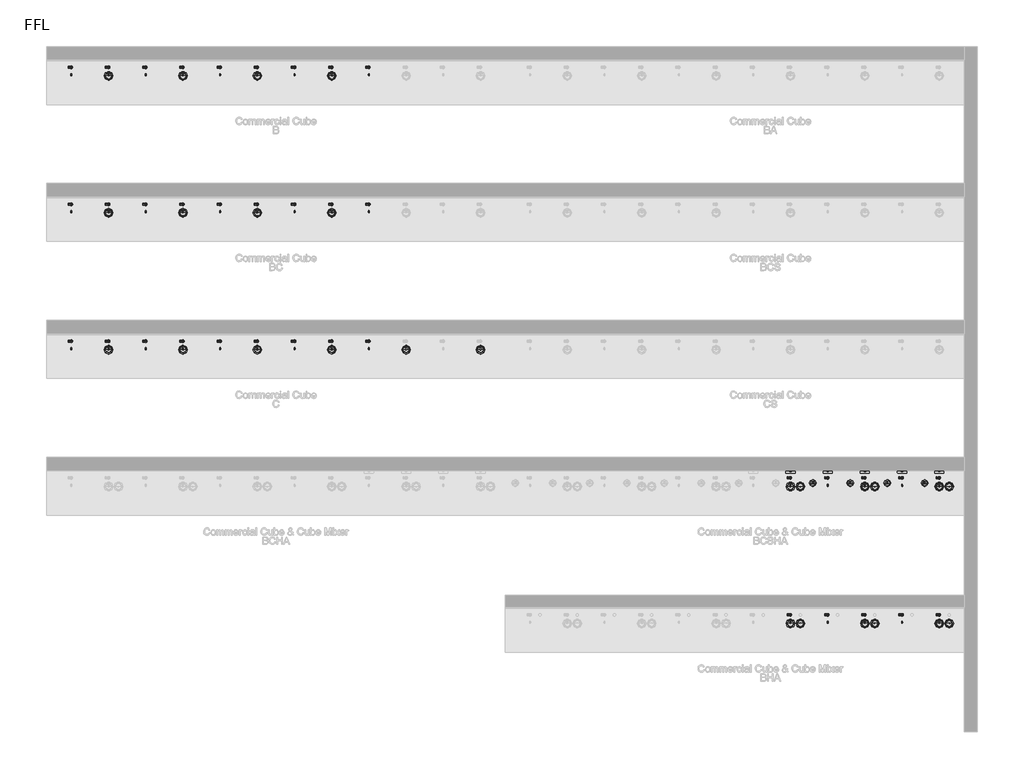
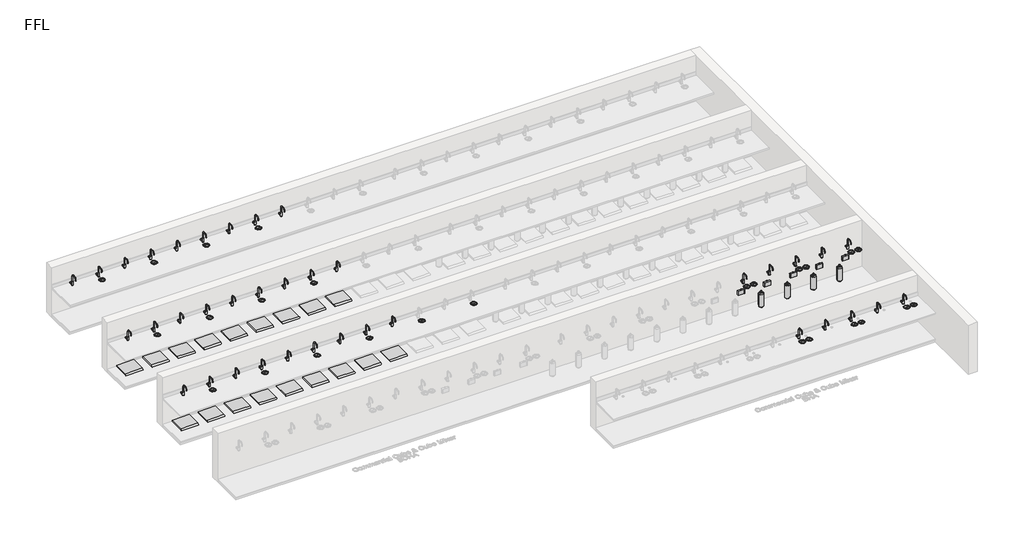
# One storey, part 3 of 14: 100 flow terminals.
"""IFC4 building model written with IfcOpenShell, lengths in millimetres."""

from ifc_helpers import new_model, si_unit, origin, place, context, project, spatial, transform, mapped, element, save
from components import flow_terminal_100_people_gold_0dc622b1, flow_terminal_100_people_nickel_19c471c0, bcs_and_bc_6de74493, bright_chrome_cb32e6d9, bright_chrome_743c02cf, co2_gas_cylinder_20234e14

model = new_model("IFC4")

# Units and contexts
model_context = context("Model", 3, world=origin())
ifc_project = project(units=[si_unit("LENGTHUNIT", "METRE", prefix="MILLI")], contexts=[model_context])

# Site, building, storey
site = spatial("IfcSite", under=ifc_project)
building = spatial("IfcBuilding", under=site)
storey = spatial("IfcBuildingStorey", under=building, Name="FFL", Elevation=0.0)

# Flow terminals
placement = place(None, origin())
flow_terminal_100_people_gold_shape = flow_terminal_100_people_gold_0dc622b1(model_context)
element("IfcFlowTerminal", 1, ObjectType="PlumFixt_Zip Commercial_Cube_B : 100 People - Gold", at=placement, inside=storey, context=model_context, shape_type="MappedRepresentation", body=[
    mapped(flow_terminal_100_people_gold_shape, transform((-1970.7352929, 7582.7393304, 0.0), x_axis=(1.0, 0.0, 0.0), y_axis=(0.0, 1.0, 0.0), z_axis=(0.0, 0.0, 1.0))),
])
flow_terminal_100_people_nickel_shape = flow_terminal_100_people_nickel_19c471c0(model_context)
element("IfcFlowTerminal", 2, ObjectType="PlumFixt_Zip Commercial_Cube_C : 100 People - Gold", at=placement, inside=storey, context=model_context, shape_type="MappedRepresentation", body=[
    mapped(flow_terminal_100_people_nickel_shape, transform((-1970.7352929, 2062.7393304, 0.0), x_axis=(1.0, 0.0, 0.0), y_axis=(0.0, 1.0, 0.0), z_axis=(0.0, 0.0, 1.0))),
])
element("IfcFlowTerminal", 3, ObjectType="PlumFixt_Zip Commercial_Cube_B : 100 People - Gunmetal", at=placement, inside=storey, context=model_context, shape_type="MappedRepresentation", body=[
    mapped(flow_terminal_100_people_gold_shape, transform((-1220.7352929, 7582.7393304, 0.0), x_axis=(1.0, 0.0, 0.0), y_axis=(0.0, 1.0, 0.0), z_axis=(0.0, 0.0, 1.0))),
])
element("IfcFlowTerminal", 4, ObjectType="PlumFixt_Zip Commercial_Cube_C : 100 People - Gunmetal", at=placement, inside=storey, context=model_context, shape_type="MappedRepresentation", body=[
    mapped(flow_terminal_100_people_nickel_shape, transform((-1220.7352929, 2062.7393304, 0.0), x_axis=(1.0, 0.0, 0.0), y_axis=(0.0, 1.0, 0.0), z_axis=(0.0, 0.0, 1.0))),
])
element("IfcFlowTerminal", 5, ObjectType="PlumFixt_Zip Commercial_Cube_Cube Mixer_BCSHA : 100 People - Gunmetal", at=placement, inside=storey, context=model_context, shape_type="MappedRepresentation", body=[
    mapped(flow_terminal_100_people_gold_shape, transform((8029.2647071, -696.2606696, 0.0), x_axis=(1.0, 0.0, 0.0), y_axis=(0.0, 1.0, 0.0), z_axis=(0.0, 0.0, 1.0))),
])
element("IfcFlowTerminal", 6, ObjectType="PlumFixt_Zip Commercial_Cube_B : 100 People - Matte Black", at=placement, inside=storey, context=model_context, shape_type="MappedRepresentation", body=[
    mapped(flow_terminal_100_people_gold_shape, transform((-470.7352929, 7582.7393304, 0.0), x_axis=(1.0, 0.0, 0.0), y_axis=(0.0, 1.0, 0.0), z_axis=(0.0, 0.0, 1.0))),
])
element("IfcFlowTerminal", 7, ObjectType="PlumFixt_Zip Commercial_Cube_C : 100 People - Matte Black", at=placement, inside=storey, context=model_context, shape_type="MappedRepresentation", body=[
    mapped(flow_terminal_100_people_nickel_shape, transform((-470.7352929, 2062.7393304, 0.0), x_axis=(1.0, 0.0, 0.0), y_axis=(0.0, 1.0, 0.0), z_axis=(0.0, 0.0, 1.0))),
])
element("IfcFlowTerminal", 8, ObjectType="PlumFixt_Zip Commercial_Cube_Cube Mixer_BHA : 100 People - Matte Black", at=placement, inside=storey, context=model_context, shape_type="MappedRepresentation", body=[
    mapped(flow_terminal_100_people_gold_shape, transform((8779.2647071, -3457.2606696, 0.0), x_axis=(1.0, 0.0, 0.0), y_axis=(0.0, 1.0, 0.0), z_axis=(0.0, 0.0, 1.0))),
])
element("IfcFlowTerminal", 9, ObjectType="PlumFixt_Zip Commercial_Cube_Cube Mixer_BCSHA : 100 People - Matte Black", at=placement, inside=storey, context=model_context, shape_type="MappedRepresentation", body=[
    mapped(flow_terminal_100_people_gold_shape, transform((8779.2647071, -696.2606696, 0.0), x_axis=(1.0, 0.0, 0.0), y_axis=(0.0, 1.0, 0.0), z_axis=(0.0, 0.0, 1.0))),
])
element("IfcFlowTerminal", 10, ObjectType="PlumFixt_Zip Commercial_Cube_Cube Mixer_BHA : 100 People - Nickel", at=placement, inside=storey, context=model_context, shape_type="MappedRepresentation", body=[
    mapped(flow_terminal_100_people_gold_shape, transform((9529.2647071, -3457.2606696, 0.0), x_axis=(1.0, 0.0, 0.0), y_axis=(0.0, 1.0, 0.0), z_axis=(0.0, 0.0, 1.0))),
])
element("IfcFlowTerminal", 11, ObjectType="PlumFixt_Zip Commercial_Cube_Cube Mixer_BCSHA : 100 People - Nickel", at=placement, inside=storey, context=model_context, shape_type="MappedRepresentation", body=[
    mapped(flow_terminal_100_people_gold_shape, transform((9529.2647071, -696.2606696, 0.0), x_axis=(1.0, 0.0, 0.0), y_axis=(0.0, 1.0, 0.0), z_axis=(0.0, 0.0, 1.0))),
])
element("IfcFlowTerminal", 12, ObjectType="PlumFixt_Zip Commercial_Cube_Cube Mixer_BHA : 100 People - Platinum", at=placement, inside=storey, context=model_context, shape_type="MappedRepresentation", body=[
    mapped(flow_terminal_100_people_gold_shape, transform((10279.2647071, -3457.2606696, 0.0), x_axis=(1.0, 0.0, 0.0), y_axis=(0.0, 1.0, 0.0), z_axis=(0.0, 0.0, 1.0))),
])
element("IfcFlowTerminal", 13, ObjectType="PlumFixt_Zip Commercial_Cube_Cube Mixer_BCSHA : 100 People - Platinum", at=placement, inside=storey, context=model_context, shape_type="MappedRepresentation", body=[
    mapped(flow_terminal_100_people_gold_shape, transform((10279.2647071, -696.2606696, 0.0), x_axis=(1.0, 0.0, 0.0), y_axis=(0.0, 1.0, 0.0), z_axis=(0.0, 0.0, 1.0))),
])
element("IfcFlowTerminal", 14, ObjectType="PlumFixt_Zip Commercial_Cube_Cube Mixer_BHA : 100 People - Rose Gold", at=placement, inside=storey, context=model_context, shape_type="MappedRepresentation", body=[
    mapped(flow_terminal_100_people_gold_shape, transform((11029.2647071, -3457.2606696, 0.0), x_axis=(1.0, 0.0, 0.0), y_axis=(0.0, 1.0, 0.0), z_axis=(0.0, 0.0, 1.0))),
])
element("IfcFlowTerminal", 15, ObjectType="PlumFixt_Zip Commercial_Cube_Cube Mixer_BCSHA : 100 People - Rose Gold", at=placement, inside=storey, context=model_context, shape_type="MappedRepresentation", body=[
    mapped(flow_terminal_100_people_gold_shape, transform((11029.2647071, -696.2606696, 0.0), x_axis=(1.0, 0.0, 0.0), y_axis=(0.0, 1.0, 0.0), z_axis=(0.0, 0.0, 1.0))),
])
bcs_and_bc_shape = bcs_and_bc_6de74493(model_context)
element("IfcFlowTerminal", 16, ObjectType="z_PlumFixt_Zip_Vent Tray : BCS and BC", at=placement, inside=storey, context=model_context, shape_type="MappedRepresentation", body=[
    mapped(bcs_and_bc_shape, transform((-6470.7352929, 4945.7393304, 100.0), x_axis=(1.0, 0.0, 0.0), y_axis=(0.0, 1.0, 0.0), z_axis=(0.0, 0.0, 1.0))),
])
element("IfcFlowTerminal", 17, ObjectType="z_PlumFixt_Zip_Vent Tray : BCS and BC", at=placement, inside=storey, context=model_context, shape_type="MappedRepresentation", body=[
    mapped(bcs_and_bc_shape, transform((-5720.7352929, 4945.7393304, 100.0), x_axis=(1.0, 0.0, 0.0), y_axis=(0.0, 1.0, 0.0), z_axis=(0.0, 0.0, 1.0))),
])
element("IfcFlowTerminal", 18, ObjectType="z_PlumFixt_Zip_Vent Tray : BCS and BC", at=placement, inside=storey, context=model_context, shape_type="MappedRepresentation", body=[
    mapped(bcs_and_bc_shape, transform((-4970.7352929, 4945.7393304, 100.0), x_axis=(1.0, 0.0, 0.0), y_axis=(0.0, 1.0, 0.0), z_axis=(0.0, 0.0, 1.0))),
])
element("IfcFlowTerminal", 19, ObjectType="z_PlumFixt_Zip_Vent Tray : BCS and BC", at=placement, inside=storey, context=model_context, shape_type="MappedRepresentation", body=[
    mapped(bcs_and_bc_shape, transform((-4220.7352929, 4945.7393304, 100.0), x_axis=(1.0, 0.0, 0.0), y_axis=(0.0, 1.0, 0.0), z_axis=(0.0, 0.0, 1.0))),
])
element("IfcFlowTerminal", 20, ObjectType="z_PlumFixt_Zip_Vent Tray : BCS and BC", at=placement, inside=storey, context=model_context, shape_type="MappedRepresentation", body=[
    mapped(bcs_and_bc_shape, transform((-3470.7352929, 4945.7393304, 100.0), x_axis=(1.0, 0.0, 0.0), y_axis=(0.0, 1.0, 0.0), z_axis=(0.0, 0.0, 1.0))),
])
element("IfcFlowTerminal", 21, ObjectType="z_PlumFixt_Zip_Vent Tray : BCS and BC", at=placement, inside=storey, context=model_context, shape_type="MappedRepresentation", body=[
    mapped(bcs_and_bc_shape, transform((-2720.7352929, 4945.7393304, 100.0), x_axis=(1.0, 0.0, 0.0), y_axis=(0.0, 1.0, 0.0), z_axis=(0.0, 0.0, 1.0))),
])
element("IfcFlowTerminal", 22, ObjectType="z_PlumFixt_Zip_Vent Tray : BCS and BC", at=placement, inside=storey, context=model_context, shape_type="MappedRepresentation", body=[
    mapped(bcs_and_bc_shape, transform((-1970.7352929, 4945.7393304, 100.0), x_axis=(1.0, 0.0, 0.0), y_axis=(0.0, 1.0, 0.0), z_axis=(0.0, 0.0, 1.0))),
])
element("IfcFlowTerminal", 23, ObjectType="z_PlumFixt_Zip_Vent Tray : BCS and BC", at=placement, inside=storey, context=model_context, shape_type="MappedRepresentation", body=[
    mapped(bcs_and_bc_shape, transform((-1220.7352929, 4945.7393304, 100.0), x_axis=(1.0, 0.0, 0.0), y_axis=(0.0, 1.0, 0.0), z_axis=(0.0, 0.0, 1.0))),
])
element("IfcFlowTerminal", 24, ObjectType="z_PlumFixt_Zip_Vent Tray : BCS and BC", at=placement, inside=storey, context=model_context, shape_type="MappedRepresentation", body=[
    mapped(bcs_and_bc_shape, transform((-470.7352929, 4945.7393304, 100.0), x_axis=(1.0, 0.0, 0.0), y_axis=(0.0, 1.0, 0.0), z_axis=(0.0, 0.0, 1.0))),
])
bright_chrome_shape = bright_chrome_cb32e6d9(model_context)
element("IfcFlowTerminal", 25, ObjectType="z_PlumFixt_Zip_Cube : Bright Chrome", at=placement, inside=storey, context=model_context, shape_type="MappedRepresentation", body=[
    mapped(bright_chrome_shape, transform((-6487.7352929, 7610.7393304, 900.0), x_axis=(1.0000000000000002, 0.0, 0.0), y_axis=(0.0, 1.0000000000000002, 0.0), z_axis=(0.0, 0.0, 1.0))),
])
element("IfcFlowTerminal", 26, ObjectType="z_PlumFixt_Zip_Cube : Bright Chrome", at=placement, inside=storey, context=model_context, shape_type="MappedRepresentation", body=[
    mapped(bright_chrome_shape, transform((-6487.7352929, 2090.7393304, 900.0), x_axis=(1.0000000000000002, 0.0, 0.0), y_axis=(0.0, 1.0000000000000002, 0.0), z_axis=(0.0, 0.0, 1.0))),
])
element("IfcFlowTerminal", 27, ObjectType="z_PlumFixt_Zip_Cube : Bright Chrome", at=placement, inside=storey, context=model_context, shape_type="MappedRepresentation", body=[
    mapped(bright_chrome_shape, transform((-6487.7352929, 4850.7393304, 900.0), x_axis=(1.0000000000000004, 0.0, 0.0), y_axis=(0.0, 1.0000000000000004, 0.0), z_axis=(0.0, 0.0, 1.0))),
])
bright_chrome_2_shape = bright_chrome_743c02cf(model_context)
element("IfcFlowTerminal", 28, ObjectType="z_PlumFixt_Zip_Font : Bright Chrome", at=placement, inside=storey, context=model_context, shape_type="MappedRepresentation", body=[
    mapped(bright_chrome_2_shape, transform((8229.2647071, -767.7606696, 900.0), x_axis=(1.0000000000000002, 0.0, 0.0), y_axis=(0.0, 1.0000000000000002, 0.0), z_axis=(0.0, 0.0, 1.0))),
])
element("IfcFlowTerminal", 29, ObjectType="z_PlumFixt_Zip_Font : Bright Chrome", at=placement, inside=storey, context=model_context, shape_type="MappedRepresentation", body=[
    mapped(bright_chrome_2_shape, transform((9729.2647071, -767.7606696, 900.0), x_axis=(1.0000000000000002, 0.0, 0.0), y_axis=(0.0, 1.0000000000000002, 0.0), z_axis=(0.0, 0.0, 1.0))),
])
element("IfcFlowTerminal", 30, ObjectType="z_PlumFixt_Zip_Font : Bright Chrome", at=placement, inside=storey, context=model_context, shape_type="MappedRepresentation", body=[
    mapped(bright_chrome_2_shape, transform((11229.2647071, -767.7606696, 900.0), x_axis=(1.0000000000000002, 0.0, 0.0), y_axis=(0.0, 1.0000000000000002, 0.0), z_axis=(0.0, 0.0, 1.0))),
])
element("IfcFlowTerminal", 31, ObjectType="z_PlumFixt_Zip_Font : Bright Chrome", at=placement, inside=storey, context=model_context, shape_type="MappedRepresentation", body=[
    mapped(bright_chrome_2_shape, transform((8229.2647071, -3528.7606696, 900.0), x_axis=(1.0000000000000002, 0.0, 0.0), y_axis=(0.0, 1.0000000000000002, 0.0), z_axis=(0.0, 0.0, 1.0))),
])
element("IfcFlowTerminal", 32, ObjectType="z_PlumFixt_Zip_Font : Bright Chrome", at=placement, inside=storey, context=model_context, shape_type="MappedRepresentation", body=[
    mapped(bright_chrome_2_shape, transform((9729.2647071, -3528.7606696, 900.0), x_axis=(1.0000000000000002, 0.0, 0.0), y_axis=(0.0, 1.0000000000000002, 0.0), z_axis=(0.0, 0.0, 1.0))),
])
element("IfcFlowTerminal", 33, ObjectType="z_PlumFixt_Zip_Font : Bright Chrome", at=placement, inside=storey, context=model_context, shape_type="MappedRepresentation", body=[
    mapped(bright_chrome_2_shape, transform((11229.2647071, -3528.7606696, 900.0), x_axis=(1.0000000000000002, 0.0, 0.0), y_axis=(0.0, 1.0000000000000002, 0.0), z_axis=(0.0, 0.0, 1.0))),
])
element("IfcFlowTerminal", 34, ObjectType="z_PlumFixt_Zip_Font : Brushed Chrome", at=placement, inside=storey, context=model_context, shape_type="MappedRepresentation", body=[
    mapped(bright_chrome_2_shape, transform((-5720.7352929, 7511.2393304, 900.0), x_axis=(1.0000000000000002, 0.0, 0.0), y_axis=(0.0, 1.0000000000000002, 0.0), z_axis=(0.0, 0.0, 1.0))),
])
element("IfcFlowTerminal", 35, ObjectType="z_PlumFixt_Zip_Font : Brushed Chrome", at=placement, inside=storey, context=model_context, shape_type="MappedRepresentation", body=[
    mapped(bright_chrome_2_shape, transform((-4220.7352929, 7511.2393304, 900.0), x_axis=(1.0000000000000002, 0.0, 0.0), y_axis=(0.0, 1.0000000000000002, 0.0), z_axis=(0.0, 0.0, 1.0))),
])
element("IfcFlowTerminal", 36, ObjectType="z_PlumFixt_Zip_Font : Brushed Chrome", at=placement, inside=storey, context=model_context, shape_type="MappedRepresentation", body=[
    mapped(bright_chrome_2_shape, transform((-2720.7352929, 7511.2393304, 900.0), x_axis=(1.0000000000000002, 0.0, 0.0), y_axis=(0.0, 1.0000000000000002, 0.0), z_axis=(0.0, 0.0, 1.0))),
])
element("IfcFlowTerminal", 37, ObjectType="z_PlumFixt_Zip_Font : Brushed Chrome", at=placement, inside=storey, context=model_context, shape_type="MappedRepresentation", body=[
    mapped(bright_chrome_2_shape, transform((-1220.7352929, 7511.2393304, 900.0), x_axis=(1.0000000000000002, 0.0, 0.0), y_axis=(0.0, 1.0000000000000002, 0.0), z_axis=(0.0, 0.0, 1.0))),
])
element("IfcFlowTerminal", 38, ObjectType="z_PlumFixt_Zip_Font : Brushed Chrome", at=placement, inside=storey, context=model_context, shape_type="MappedRepresentation", body=[
    mapped(bright_chrome_2_shape, transform((-5720.7352929, 4751.2393304, 900.0), x_axis=(1.0000000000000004, 0.0, 0.0), y_axis=(0.0, 1.0000000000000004, 0.0), z_axis=(0.0, 0.0, 1.0))),
])
element("IfcFlowTerminal", 39, ObjectType="z_PlumFixt_Zip_Font : Brushed Chrome", at=placement, inside=storey, context=model_context, shape_type="MappedRepresentation", body=[
    mapped(bright_chrome_2_shape, transform((-4220.7352929, 4751.2393304, 900.0), x_axis=(1.0000000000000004, 0.0, 0.0), y_axis=(0.0, 1.0000000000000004, 0.0), z_axis=(0.0, 0.0, 1.0))),
])
element("IfcFlowTerminal", 40, ObjectType="z_PlumFixt_Zip_Font : Brushed Chrome", at=placement, inside=storey, context=model_context, shape_type="MappedRepresentation", body=[
    mapped(bright_chrome_2_shape, transform((-2720.7352929, 4751.2393304, 900.0), x_axis=(1.0000000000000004, 0.0, 0.0), y_axis=(0.0, 1.0000000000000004, 0.0), z_axis=(0.0, 0.0, 1.0))),
])
element("IfcFlowTerminal", 41, ObjectType="z_PlumFixt_Zip_Font : Brushed Chrome", at=placement, inside=storey, context=model_context, shape_type="MappedRepresentation", body=[
    mapped(bright_chrome_2_shape, transform((-1220.7352929, 4751.2393304, 900.0), x_axis=(1.0000000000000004, 0.0, 0.0), y_axis=(0.0, 1.0000000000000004, 0.0), z_axis=(0.0, 0.0, 1.0))),
])
element("IfcFlowTerminal", 42, ObjectType="z_PlumFixt_Zip_Font : Brushed Chrome", at=placement, inside=storey, context=model_context, shape_type="MappedRepresentation", body=[
    mapped(bright_chrome_2_shape, transform((-5720.7352929, 1991.2393304, 900.0), x_axis=(1.0000000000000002, 0.0, 0.0), y_axis=(0.0, 1.0000000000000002, 0.0), z_axis=(0.0, 0.0, 1.0))),
])
element("IfcFlowTerminal", 43, ObjectType="z_PlumFixt_Zip_Font : Brushed Chrome", at=placement, inside=storey, context=model_context, shape_type="MappedRepresentation", body=[
    mapped(bright_chrome_2_shape, transform((-4220.7352929, 1991.2393304, 900.0), x_axis=(1.0000000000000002, 0.0, 0.0), y_axis=(0.0, 1.0000000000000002, 0.0), z_axis=(0.0, 0.0, 1.0))),
])
element("IfcFlowTerminal", 44, ObjectType="z_PlumFixt_Zip_Font : Brushed Chrome", at=placement, inside=storey, context=model_context, shape_type="MappedRepresentation", body=[
    mapped(bright_chrome_2_shape, transform((-2720.7352929, 1991.2393304, 900.0), x_axis=(1.0000000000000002, 0.0, 0.0), y_axis=(0.0, 1.0000000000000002, 0.0), z_axis=(0.0, 0.0, 1.0))),
])
element("IfcFlowTerminal", 45, ObjectType="z_PlumFixt_Zip_Font : Brushed Chrome", at=placement, inside=storey, context=model_context, shape_type="MappedRepresentation", body=[
    mapped(bright_chrome_2_shape, transform((-1220.7352929, 1991.2393304, 900.0), x_axis=(1.0000000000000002, 0.0, 0.0), y_axis=(0.0, 1.0000000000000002, 0.0), z_axis=(0.0, 0.0, 1.0))),
])
element("IfcFlowTerminal", 46, ObjectType="z_PlumFixt_Zip_Font : Brushed Chrome", at=placement, inside=storey, context=model_context, shape_type="MappedRepresentation", body=[
    mapped(bright_chrome_2_shape, transform((279.2647071, 1991.2393304, 900.0), x_axis=(1.0000000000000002, 0.0, 0.0), y_axis=(0.0, 1.0000000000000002, 0.0), z_axis=(0.0, 0.0, 1.0))),
])
element("IfcFlowTerminal", 47, ObjectType="z_PlumFixt_Zip_Font : Brushed Chrome", at=placement, inside=storey, context=model_context, shape_type="MappedRepresentation", body=[
    mapped(bright_chrome_2_shape, transform((1779.2647071, 1991.2393304, 900.0), x_axis=(1.0000000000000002, 0.0, 0.0), y_axis=(0.0, 1.0000000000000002, 0.0), z_axis=(0.0, 0.0, 1.0))),
])
element("IfcFlowTerminal", 48, ObjectType="z_PlumFixt_Zip_Font : Brushed Chrome", at=placement, inside=storey, context=model_context, shape_type="MappedRepresentation", body=[
    mapped(bright_chrome_2_shape, transform((8029.2647071, -767.7606696, 900.0), x_axis=(1.0000000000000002, 0.0, 0.0), y_axis=(0.0, 1.0000000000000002, 0.0), z_axis=(0.0, 0.0, 1.0))),
])
element("IfcFlowTerminal", 49, ObjectType="z_PlumFixt_Zip_Font : Brushed Chrome", at=placement, inside=storey, context=model_context, shape_type="MappedRepresentation", body=[
    mapped(bright_chrome_2_shape, transform((9529.2647071, -767.7606696, 900.0), x_axis=(1.0000000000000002, 0.0, 0.0), y_axis=(0.0, 1.0000000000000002, 0.0), z_axis=(0.0, 0.0, 1.0))),
])
element("IfcFlowTerminal", 50, ObjectType="z_PlumFixt_Zip_Font : Brushed Chrome", at=placement, inside=storey, context=model_context, shape_type="MappedRepresentation", body=[
    mapped(bright_chrome_2_shape, transform((11029.2647071, -767.7606696, 900.0), x_axis=(1.0000000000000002, 0.0, 0.0), y_axis=(0.0, 1.0000000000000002, 0.0), z_axis=(0.0, 0.0, 1.0))),
])
element("IfcFlowTerminal", 51, ObjectType="z_PlumFixt_Zip_Font : Brushed Chrome", at=placement, inside=storey, context=model_context, shape_type="MappedRepresentation", body=[
    mapped(bright_chrome_2_shape, transform((8029.2647071, -3528.7606696, 900.0), x_axis=(1.0000000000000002, 0.0, 0.0), y_axis=(0.0, 1.0000000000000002, 0.0), z_axis=(0.0, 0.0, 1.0))),
])
element("IfcFlowTerminal", 52, ObjectType="z_PlumFixt_Zip_Font : Brushed Chrome", at=placement, inside=storey, context=model_context, shape_type="MappedRepresentation", body=[
    mapped(bright_chrome_2_shape, transform((9529.2647071, -3528.7606696, 900.0), x_axis=(1.0000000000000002, 0.0, 0.0), y_axis=(0.0, 1.0000000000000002, 0.0), z_axis=(0.0, 0.0, 1.0))),
])
element("IfcFlowTerminal", 53, ObjectType="z_PlumFixt_Zip_Font : Brushed Chrome", at=placement, inside=storey, context=model_context, shape_type="MappedRepresentation", body=[
    mapped(bright_chrome_2_shape, transform((11029.2647071, -3528.7606696, 900.0), x_axis=(1.0000000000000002, 0.0, 0.0), y_axis=(0.0, 1.0000000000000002, 0.0), z_axis=(0.0, 0.0, 1.0))),
])
element("IfcFlowTerminal", 54, ObjectType="z_PlumFixt_Zip_Cube : Brushed Chrome", at=placement, inside=storey, context=model_context, shape_type="MappedRepresentation", body=[
    mapped(bright_chrome_shape, transform((-5737.7352929, 7610.7393304, 900.0), x_axis=(1.0000000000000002, 0.0, 0.0), y_axis=(0.0, 1.0000000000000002, 0.0), z_axis=(0.0, 0.0, 1.0))),
])
element("IfcFlowTerminal", 55, ObjectType="z_PlumFixt_Zip_Cube : Brushed Chrome", at=placement, inside=storey, context=model_context, shape_type="MappedRepresentation", body=[
    mapped(bright_chrome_shape, transform((-5737.7352929, 2090.7393304, 900.0), x_axis=(1.0000000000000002, 0.0, 0.0), y_axis=(0.0, 1.0000000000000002, 0.0), z_axis=(0.0, 0.0, 1.0))),
])
element("IfcFlowTerminal", 56, ObjectType="z_PlumFixt_Zip_Cube : Brushed Chrome", at=placement, inside=storey, context=model_context, shape_type="MappedRepresentation", body=[
    mapped(bright_chrome_shape, transform((-5737.7352929, 4850.7393304, 900.0), x_axis=(1.0000000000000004, 0.0, 0.0), y_axis=(0.0, 1.0000000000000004, 0.0), z_axis=(0.0, 0.0, 1.0))),
])
element("IfcFlowTerminal", 57, ObjectType="z_PlumFixt_Zip_Cube : Brushed Gold", at=placement, inside=storey, context=model_context, shape_type="MappedRepresentation", body=[
    mapped(bright_chrome_shape, transform((-4987.7352929, 7610.7393304, 900.0), x_axis=(1.0000000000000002, 0.0, 0.0), y_axis=(0.0, 1.0000000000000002, 0.0), z_axis=(0.0, 0.0, 1.0))),
])
element("IfcFlowTerminal", 58, ObjectType="z_PlumFixt_Zip_Cube : Brushed Gold", at=placement, inside=storey, context=model_context, shape_type="MappedRepresentation", body=[
    mapped(bright_chrome_shape, transform((-4987.7352929, 2090.7393304, 900.0), x_axis=(1.0000000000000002, 0.0, 0.0), y_axis=(0.0, 1.0000000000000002, 0.0), z_axis=(0.0, 0.0, 1.0))),
])
element("IfcFlowTerminal", 59, ObjectType="z_PlumFixt_Zip_Cube : Brushed Gold", at=placement, inside=storey, context=model_context, shape_type="MappedRepresentation", body=[
    mapped(bright_chrome_shape, transform((-4987.7352929, 4850.7393304, 900.0), x_axis=(1.0000000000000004, 0.0, 0.0), y_axis=(0.0, 1.0000000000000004, 0.0), z_axis=(0.0, 0.0, 1.0))),
])
element("IfcFlowTerminal", 60, ObjectType="z_PlumFixt_Zip_Cube : Brushed Nickel", at=placement, inside=storey, context=model_context, shape_type="MappedRepresentation", body=[
    mapped(bright_chrome_shape, transform((-4237.7352929, 7610.7393304, 900.0), x_axis=(1.0000000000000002, 0.0, 0.0), y_axis=(0.0, 1.0000000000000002, 0.0), z_axis=(0.0, 0.0, 1.0))),
])
element("IfcFlowTerminal", 61, ObjectType="z_PlumFixt_Zip_Cube : Brushed Nickel", at=placement, inside=storey, context=model_context, shape_type="MappedRepresentation", body=[
    mapped(bright_chrome_shape, transform((-4237.7352929, 2090.7393304, 900.0), x_axis=(1.0000000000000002, 0.0, 0.0), y_axis=(0.0, 1.0000000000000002, 0.0), z_axis=(0.0, 0.0, 1.0))),
])
element("IfcFlowTerminal", 62, ObjectType="z_PlumFixt_Zip_Cube : Brushed Nickel", at=placement, inside=storey, context=model_context, shape_type="MappedRepresentation", body=[
    mapped(bright_chrome_shape, transform((-4237.7352929, 4850.7393304, 900.0), x_axis=(1.0000000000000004, 0.0, 0.0), y_axis=(0.0, 1.0000000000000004, 0.0), z_axis=(0.0, 0.0, 1.0))),
])
element("IfcFlowTerminal", 63, ObjectType="z_PlumFixt_Zip_Cube : Brushed Rose Gold", at=placement, inside=storey, context=model_context, shape_type="MappedRepresentation", body=[
    mapped(bright_chrome_shape, transform((-3487.7352929, 7610.7393304, 900.0), x_axis=(1.0000000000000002, 0.0, 0.0), y_axis=(0.0, 1.0000000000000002, 0.0), z_axis=(0.0, 0.0, 1.0))),
])
element("IfcFlowTerminal", 64, ObjectType="z_PlumFixt_Zip_Cube : Brushed Rose Gold", at=placement, inside=storey, context=model_context, shape_type="MappedRepresentation", body=[
    mapped(bright_chrome_shape, transform((-3487.7352929, 2090.7393304, 900.0), x_axis=(1.0000000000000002, 0.0, 0.0), y_axis=(0.0, 1.0000000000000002, 0.0), z_axis=(0.0, 0.0, 1.0))),
])
element("IfcFlowTerminal", 65, ObjectType="z_PlumFixt_Zip_Cube : Brushed Rose Gold", at=placement, inside=storey, context=model_context, shape_type="MappedRepresentation", body=[
    mapped(bright_chrome_shape, transform((-3487.7352929, 4850.7393304, 900.0), x_axis=(1.0000000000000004, 0.0, 0.0), y_axis=(0.0, 1.0000000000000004, 0.0), z_axis=(0.0, 0.0, 1.0))),
])
co2_gas_cylinder_shape = co2_gas_cylinder_20234e14(model_context)
element("IfcFlowTerminal", 66, ObjectType="z_PlumFixt_Zip_CO2 Gas Cylinder : CO2 Gas Cylinder", at=placement, inside=storey, context=model_context, shape_type="MappedRepresentation", body=[
    mapped(co2_gas_cylinder_shape, transform((8484.2647071, -769.7606696, 100.0), x_axis=(-1.0, 0.0, 0.0), y_axis=(0.0, -1.0, 0.0), z_axis=(0.0, 0.0, 1.0))),
])
element("IfcFlowTerminal", 67, ObjectType="z_PlumFixt_Zip_CO2 Gas Cylinder : CO2 Gas Cylinder", at=placement, inside=storey, context=model_context, shape_type="MappedRepresentation", body=[
    mapped(co2_gas_cylinder_shape, transform((9234.2647071, -769.7606696, 100.0), x_axis=(-1.0, 0.0, 0.0), y_axis=(0.0, -1.0, 0.0), z_axis=(0.0, 0.0, 1.0))),
])
element("IfcFlowTerminal", 68, ObjectType="z_PlumFixt_Zip_CO2 Gas Cylinder : CO2 Gas Cylinder", at=placement, inside=storey, context=model_context, shape_type="MappedRepresentation", body=[
    mapped(co2_gas_cylinder_shape, transform((9984.2647071, -769.7606696, 100.0), x_axis=(-1.0, 0.0, 0.0), y_axis=(0.0, -1.0, 0.0), z_axis=(0.0, 0.0, 1.0))),
])
element("IfcFlowTerminal", 69, ObjectType="z_PlumFixt_Zip_CO2 Gas Cylinder : CO2 Gas Cylinder", at=placement, inside=storey, context=model_context, shape_type="MappedRepresentation", body=[
    mapped(co2_gas_cylinder_shape, transform((10734.2647071, -769.7606696, 100.0), x_axis=(-1.0, 0.0, 0.0), y_axis=(0.0, -1.0, 0.0), z_axis=(0.0, 0.0, 1.0))),
])
element("IfcFlowTerminal", 70, ObjectType="z_PlumFixt_Zip_Vent Tray : CS and C", at=placement, inside=storey, context=model_context, shape_type="MappedRepresentation", body=[
    mapped(bcs_and_bc_shape, transform((-6470.7352929, 2185.7393304, 100.0), x_axis=(1.0, 0.0, 0.0), y_axis=(0.0, 1.0, 0.0), z_axis=(0.0, 0.0, 1.0))),
])
element("IfcFlowTerminal", 71, ObjectType="z_PlumFixt_Zip_Vent Tray : CS and C", at=placement, inside=storey, context=model_context, shape_type="MappedRepresentation", body=[
    mapped(bcs_and_bc_shape, transform((-5720.7352929, 2185.7393304, 100.0), x_axis=(1.0, 0.0, 0.0), y_axis=(0.0, 1.0, 0.0), z_axis=(0.0, 0.0, 1.0))),
])
element("IfcFlowTerminal", 72, ObjectType="z_PlumFixt_Zip_Vent Tray : CS and C", at=placement, inside=storey, context=model_context, shape_type="MappedRepresentation", body=[
    mapped(bcs_and_bc_shape, transform((-4970.7352929, 2185.7393304, 100.0), x_axis=(1.0, 0.0, 0.0), y_axis=(0.0, 1.0, 0.0), z_axis=(0.0, 0.0, 1.0))),
])
element("IfcFlowTerminal", 73, ObjectType="z_PlumFixt_Zip_Vent Tray : CS and C", at=placement, inside=storey, context=model_context, shape_type="MappedRepresentation", body=[
    mapped(bcs_and_bc_shape, transform((-4220.7352929, 2185.7393304, 100.0), x_axis=(1.0, 0.0, 0.0), y_axis=(0.0, 1.0, 0.0), z_axis=(0.0, 0.0, 1.0))),
])
element("IfcFlowTerminal", 74, ObjectType="z_PlumFixt_Zip_Vent Tray : CS and C", at=placement, inside=storey, context=model_context, shape_type="MappedRepresentation", body=[
    mapped(bcs_and_bc_shape, transform((-3470.7352929, 2185.7393304, 100.0), x_axis=(1.0, 0.0, 0.0), y_axis=(0.0, 1.0, 0.0), z_axis=(0.0, 0.0, 1.0))),
])
element("IfcFlowTerminal", 75, ObjectType="z_PlumFixt_Zip_Vent Tray : CS and C", at=placement, inside=storey, context=model_context, shape_type="MappedRepresentation", body=[
    mapped(bcs_and_bc_shape, transform((-2720.7352929, 2185.7393304, 100.0), x_axis=(1.0, 0.0, 0.0), y_axis=(0.0, 1.0, 0.0), z_axis=(0.0, 0.0, 1.0))),
])
element("IfcFlowTerminal", 76, ObjectType="z_PlumFixt_Zip_Vent Tray : CS and C", at=placement, inside=storey, context=model_context, shape_type="MappedRepresentation", body=[
    mapped(bcs_and_bc_shape, transform((-1970.7352929, 2185.7393304, 100.0), x_axis=(1.0, 0.0, 0.0), y_axis=(0.0, 1.0, 0.0), z_axis=(0.0, 0.0, 1.0))),
])
element("IfcFlowTerminal", 77, ObjectType="z_PlumFixt_Zip_Vent Tray : CS and C", at=placement, inside=storey, context=model_context, shape_type="MappedRepresentation", body=[
    mapped(bcs_and_bc_shape, transform((-1220.7352929, 2185.7393304, 100.0), x_axis=(1.0, 0.0, 0.0), y_axis=(0.0, 1.0, 0.0), z_axis=(0.0, 0.0, 1.0))),
])
element("IfcFlowTerminal", 78, ObjectType="z_PlumFixt_Zip_Vent Tray : CS and C", at=placement, inside=storey, context=model_context, shape_type="MappedRepresentation", body=[
    mapped(bcs_and_bc_shape, transform((-470.7352929, 2185.7393304, 100.0), x_axis=(1.0, 0.0, 0.0), y_axis=(0.0, 1.0, 0.0), z_axis=(0.0, 0.0, 1.0))),
])
element("IfcFlowTerminal", 79, ObjectType="z_PlumFixt_Zip_Cube : Gloss Black", at=placement, inside=storey, context=model_context, shape_type="MappedRepresentation", body=[
    mapped(bright_chrome_shape, transform((-2737.7352929, 7610.7393304, 900.0), x_axis=(1.0000000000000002, 0.0, 0.0), y_axis=(0.0, 1.0000000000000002, 0.0), z_axis=(0.0, 0.0, 1.0))),
])
element("IfcFlowTerminal", 80, ObjectType="z_PlumFixt_Zip_Cube : Gloss Black", at=placement, inside=storey, context=model_context, shape_type="MappedRepresentation", body=[
    mapped(bright_chrome_shape, transform((-2737.7352929, 2090.7393304, 900.0), x_axis=(1.0000000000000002, 0.0, 0.0), y_axis=(0.0, 1.0000000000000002, 0.0), z_axis=(0.0, 0.0, 1.0))),
])
element("IfcFlowTerminal", 81, ObjectType="z_PlumFixt_Zip_Cube : Gloss Black", at=placement, inside=storey, context=model_context, shape_type="MappedRepresentation", body=[
    mapped(bright_chrome_shape, transform((-2737.7352929, 4850.7393304, 900.0), x_axis=(1.0000000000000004, 0.0, 0.0), y_axis=(0.0, 1.0000000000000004, 0.0), z_axis=(0.0, 0.0, 1.0))),
])
element("IfcFlowTerminal", 82, ObjectType="z_PlumFixt_Zip_Cube : Gold", at=placement, inside=storey, context=model_context, shape_type="MappedRepresentation", body=[
    mapped(bright_chrome_shape, transform((-1987.7352929, 7610.7393304, 900.0), x_axis=(1.0000000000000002, 0.0, 0.0), y_axis=(0.0, 1.0000000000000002, 0.0), z_axis=(0.0, 0.0, 1.0))),
])
element("IfcFlowTerminal", 83, ObjectType="z_PlumFixt_Zip_Cube : Gold", at=placement, inside=storey, context=model_context, shape_type="MappedRepresentation", body=[
    mapped(bright_chrome_shape, transform((-1987.7352929, 2090.7393304, 900.0), x_axis=(1.0000000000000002, 0.0, 0.0), y_axis=(0.0, 1.0000000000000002, 0.0), z_axis=(0.0, 0.0, 1.0))),
])
element("IfcFlowTerminal", 84, ObjectType="z_PlumFixt_Zip_Cube : Gold", at=placement, inside=storey, context=model_context, shape_type="MappedRepresentation", body=[
    mapped(bright_chrome_shape, transform((-1987.7352929, 4850.7393304, 900.0), x_axis=(1.0000000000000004, 0.0, 0.0), y_axis=(0.0, 1.0000000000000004, 0.0), z_axis=(0.0, 0.0, 1.0))),
])
element("IfcFlowTerminal", 85, ObjectType="z_PlumFixt_Zip_Cube : Gunmetal", at=placement, inside=storey, context=model_context, shape_type="MappedRepresentation", body=[
    mapped(bright_chrome_shape, transform((-1237.7352929, 7610.7393304, 900.0), x_axis=(1.0000000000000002, 0.0, 0.0), y_axis=(0.0, 1.0000000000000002, 0.0), z_axis=(0.0, 0.0, 1.0))),
])
element("IfcFlowTerminal", 86, ObjectType="z_PlumFixt_Zip_Cube : Gunmetal", at=placement, inside=storey, context=model_context, shape_type="MappedRepresentation", body=[
    mapped(bright_chrome_shape, transform((-1237.7352929, 2090.7393304, 900.0), x_axis=(1.0000000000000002, 0.0, 0.0), y_axis=(0.0, 1.0000000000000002, 0.0), z_axis=(0.0, 0.0, 1.0))),
])
element("IfcFlowTerminal", 87, ObjectType="z_PlumFixt_Zip_Cube : Gunmetal", at=placement, inside=storey, context=model_context, shape_type="MappedRepresentation", body=[
    mapped(bright_chrome_shape, transform((-1237.7352929, 4850.7393304, 900.0), x_axis=(1.0000000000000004, 0.0, 0.0), y_axis=(0.0, 1.0000000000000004, 0.0), z_axis=(0.0, 0.0, 1.0))),
])
element("IfcFlowTerminal", 88, ObjectType="z_PlumFixt_Zip_Cube : Gunmetal", at=placement, inside=storey, context=model_context, shape_type="MappedRepresentation", body=[
    mapped(bright_chrome_shape, transform((8012.2647071, -668.2606696, 900.0), x_axis=(1.0000000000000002, 0.0, 0.0), y_axis=(0.0, 1.0000000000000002, 0.0), z_axis=(0.0, 0.0, 1.0))),
])
element("IfcFlowTerminal", 89, ObjectType="z_PlumFixt_Zip_Cube : Gunmetal", at=placement, inside=storey, context=model_context, shape_type="MappedRepresentation", body=[
    mapped(bright_chrome_shape, transform((8012.2647071, -3429.2606696, 900.0), x_axis=(1.0000000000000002, 0.0, 0.0), y_axis=(0.0, 1.0000000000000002, 0.0), z_axis=(0.0, 0.0, 1.0))),
])
element("IfcFlowTerminal", 90, ObjectType="z_PlumFixt_Zip_Cube : Matte Black", at=placement, inside=storey, context=model_context, shape_type="MappedRepresentation", body=[
    mapped(bright_chrome_shape, transform((-487.7352929, 7610.7393304, 900.0), x_axis=(1.0000000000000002, 0.0, 0.0), y_axis=(0.0, 1.0000000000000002, 0.0), z_axis=(0.0, 0.0, 1.0))),
])
element("IfcFlowTerminal", 91, ObjectType="z_PlumFixt_Zip_Cube : Matte Black", at=placement, inside=storey, context=model_context, shape_type="MappedRepresentation", body=[
    mapped(bright_chrome_shape, transform((-487.7352929, 2090.7393304, 900.0), x_axis=(1.0000000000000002, 0.0, 0.0), y_axis=(0.0, 1.0000000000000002, 0.0), z_axis=(0.0, 0.0, 1.0))),
])
element("IfcFlowTerminal", 92, ObjectType="z_PlumFixt_Zip_Cube : Matte Black", at=placement, inside=storey, context=model_context, shape_type="MappedRepresentation", body=[
    mapped(bright_chrome_shape, transform((-487.7352929, 4850.7393304, 900.0), x_axis=(1.0000000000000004, 0.0, 0.0), y_axis=(0.0, 1.0000000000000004, 0.0), z_axis=(0.0, 0.0, 1.0))),
])
element("IfcFlowTerminal", 93, ObjectType="z_PlumFixt_Zip_Cube : Matte Black", at=placement, inside=storey, context=model_context, shape_type="MappedRepresentation", body=[
    mapped(bright_chrome_shape, transform((8762.2647071, -668.2606696, 900.0), x_axis=(1.0000000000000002, 0.0, 0.0), y_axis=(0.0, 1.0000000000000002, 0.0), z_axis=(0.0, 0.0, 1.0))),
])
element("IfcFlowTerminal", 94, ObjectType="z_PlumFixt_Zip_Cube : Matte Black", at=placement, inside=storey, context=model_context, shape_type="MappedRepresentation", body=[
    mapped(bright_chrome_shape, transform((8762.2647071, -3429.2606696, 900.0), x_axis=(1.0000000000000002, 0.0, 0.0), y_axis=(0.0, 1.0000000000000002, 0.0), z_axis=(0.0, 0.0, 1.0))),
])
element("IfcFlowTerminal", 95, ObjectType="z_PlumFixt_Zip_Cube : Nickel", at=placement, inside=storey, context=model_context, shape_type="MappedRepresentation", body=[
    mapped(bright_chrome_shape, transform((9512.2647071, -668.2606696, 900.0), x_axis=(1.0000000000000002, 0.0, 0.0), y_axis=(0.0, 1.0000000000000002, 0.0), z_axis=(0.0, 0.0, 1.0))),
])
element("IfcFlowTerminal", 96, ObjectType="z_PlumFixt_Zip_Cube : Nickel", at=placement, inside=storey, context=model_context, shape_type="MappedRepresentation", body=[
    mapped(bright_chrome_shape, transform((9512.2647071, -3429.2606696, 900.0), x_axis=(1.0000000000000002, 0.0, 0.0), y_axis=(0.0, 1.0000000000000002, 0.0), z_axis=(0.0, 0.0, 1.0))),
])
element("IfcFlowTerminal", 97, ObjectType="z_PlumFixt_Zip_Cube : Platinum", at=placement, inside=storey, context=model_context, shape_type="MappedRepresentation", body=[
    mapped(bright_chrome_shape, transform((10262.2647071, -668.2606696, 900.0), x_axis=(1.0000000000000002, 0.0, 0.0), y_axis=(0.0, 1.0000000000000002, 0.0), z_axis=(0.0, 0.0, 1.0))),
])
element("IfcFlowTerminal", 98, ObjectType="z_PlumFixt_Zip_Cube : Platinum", at=placement, inside=storey, context=model_context, shape_type="MappedRepresentation", body=[
    mapped(bright_chrome_shape, transform((10262.2647071, -3429.2606696, 900.0), x_axis=(1.0000000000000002, 0.0, 0.0), y_axis=(0.0, 1.0000000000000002, 0.0), z_axis=(0.0, 0.0, 1.0))),
])
element("IfcFlowTerminal", 99, ObjectType="z_PlumFixt_Zip_Cube : Rose Gold", at=placement, inside=storey, context=model_context, shape_type="MappedRepresentation", body=[
    mapped(bright_chrome_shape, transform((11012.2647071, -668.2606696, 900.0), x_axis=(1.0000000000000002, 0.0, 0.0), y_axis=(0.0, 1.0000000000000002, 0.0), z_axis=(0.0, 0.0, 1.0))),
])
element("IfcFlowTerminal", 100, ObjectType="z_PlumFixt_Zip_Cube : Rose Gold", at=placement, inside=storey, context=model_context, shape_type="MappedRepresentation", body=[
    mapped(bright_chrome_shape, transform((11012.2647071, -3429.2606696, 900.0), x_axis=(1.0000000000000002, 0.0, 0.0), y_axis=(0.0, 1.0000000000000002, 0.0), z_axis=(0.0, 0.0, 1.0))),
])

save(model, "model.ifc")
